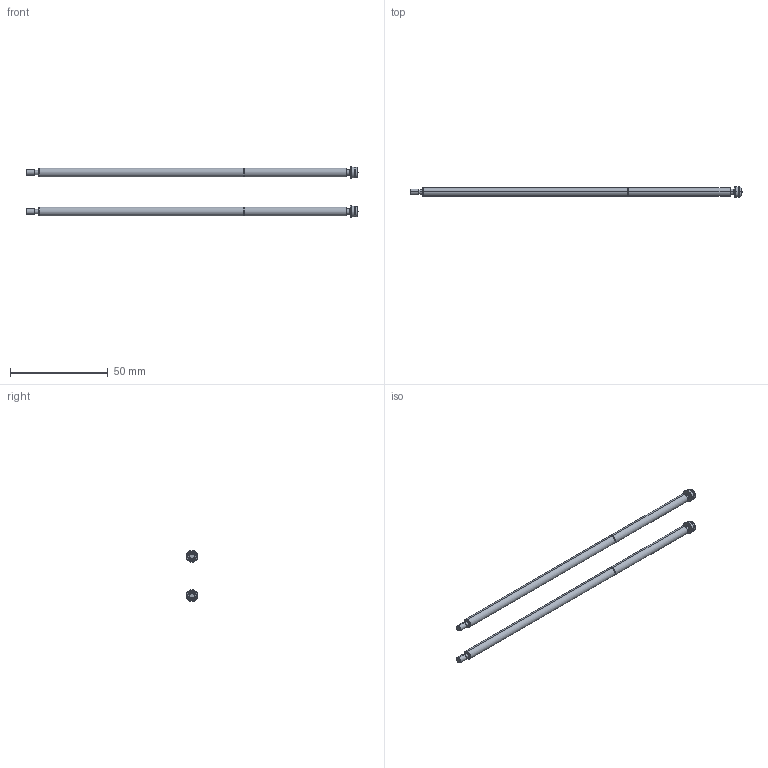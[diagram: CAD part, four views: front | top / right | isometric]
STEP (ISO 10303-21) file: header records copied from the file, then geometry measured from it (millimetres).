
FILE_DESCRIPTION( (''), '2;1');
FILE_NAME ('YS8Z-7.stp','2022-12-01T14:58:52',(''),(''),'spGate 12.6.6','','');
FILE_SCHEMA (('AUTOMOTIVE_DESIGN'));
Length unit declared in the file: millimetre
Products named in the file (4): Assembly; YS8Z-7-prt0; YS8Z-7-prt1; YS8Z-7-prt2
Assembly tree (6 placements, depth 2):
  Assembly
    YS8Z-7-prt0  x2
    YS8Z-7-prt1  x2
    YS8Z-7-prt2  x2
Bounding box: 169.9 x 6 x 26 mm (x, y, z)
Volume: 5110.8 mm3; surface area: 5592.4 mm2
Topology: 6 solids, 6 shells, 144 faces, 288 edges, 166 vertices
Faces by surface type: cylinder 60, bspline 52, plane 28, sphere 4
Entity records: 3272 total; most frequent: CARTESIAN_POINT 630, ORIENTED_EDGE 276, DIRECTION 274, COLOUR_RGB 213, PRESENTATION_STYLE_ASSIGNMENT 213, STYLED_ITEM 213, EDGE_CURVE 138, DRAUGHTING_PRE_DEFINED_CURVE_FONT 138
